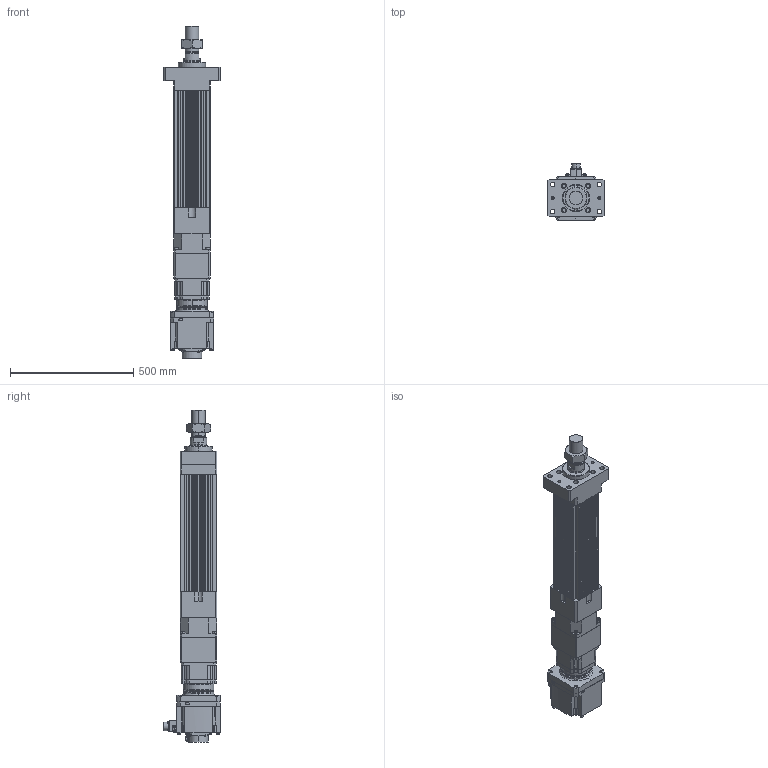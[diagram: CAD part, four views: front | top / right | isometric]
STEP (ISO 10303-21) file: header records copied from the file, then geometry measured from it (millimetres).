
FILE_DESCRIPTION (( 'STEP AP203' ), '1' );
FILE_NAME ('HES150NS(HS)-S200-W035G00-M-FM.STEP', '2023-02-01T04:24:19', ( 'tms' ), ( '' ), 'SwSTEP 2.0', 'SolidWorks 2013', '' );
FILE_SCHEMA (( 'CONFIG_CONTROL_DESIGN' ));
Length unit declared in the file: millimetre
Products named in the file (9): P0403500801; HES150-S200-G142-FM; HES150NS(HS)-S200-W035G00-M-FM; M56X2.0P; AB142-003[HG-SR352]; HG-SR352; HES150 ROD M ST200; P1301500001; AB1421
Assembly tree (8 placements, depth 3):
  HES150NS(HS)-S200-W035G00-M-FM
    HES150-S200-G142-FM
    HES150 ROD M ST200
    M56X2.0P
    AB142-003[HG-SR352]
      AB1421
      P1301500001
      P0403500801
    HG-SR352
Bounding box: 230 x 228.85 x 1347.5 mm (x, y, z)
Volume: 15642689.5 mm3; surface area: 1630025 mm2
Topology: 5 solids, 23 shells, 1508 faces, 3908 edges, 2538 vertices
Faces by surface type: cylinder 687, plane 587, cone 152, bspline 76, torus 6
Entity records: 55082 total; most frequent: CARTESIAN_POINT 16753, DIRECTION 8014, ORIENTED_EDGE 7718, EDGE_CURVE 3881, AXIS2_PLACEMENT_3D 3024, VERTEX_POINT 2538, VECTOR 1966, LINE 1966
